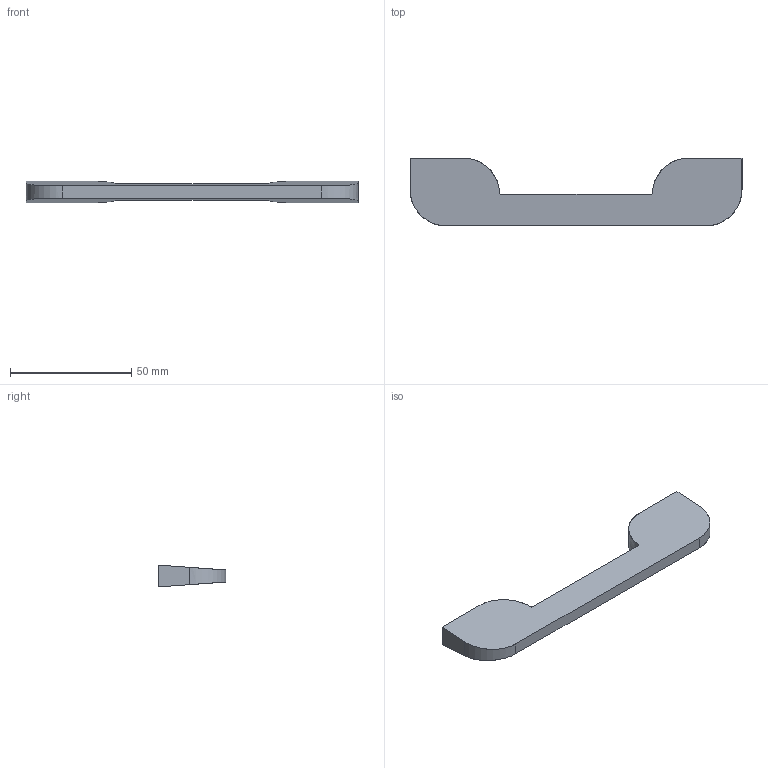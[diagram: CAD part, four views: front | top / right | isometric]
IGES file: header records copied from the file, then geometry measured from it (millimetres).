
Start section: Data from Parasolid IGES Translator 15.0.47, Copyright(c) 2006 Siemens P LM Software. All Rights Reserved.
Global section: file name: 9207427.igs; native system:  By UGS Corp.; preprocessor: XPlus GENERIC/IGES 3.0; author: Noname; organization: Noname; date: 20160301.160818; units: millimetre
Bounding box: 137 x 28 x 9 mm (x, y, z)
Surface area: 8091.8 mm2 (no closed solid volume)
Topology: 0 solids, 0 shells, 22 faces, 108 edges, 104 vertices
Faces by surface type: extrusion 12, revolution 10
